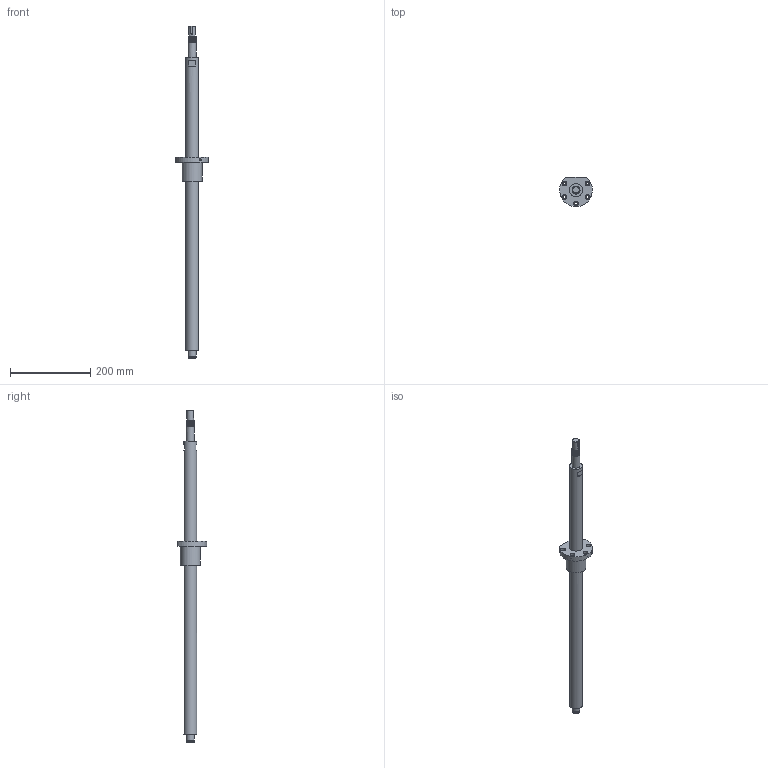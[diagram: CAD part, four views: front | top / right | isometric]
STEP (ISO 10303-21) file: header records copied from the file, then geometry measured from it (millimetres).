
FILE_DESCRIPTION(/* description */ (''),/* implementation_level */ '2;1');
FILE_NAME(/* name */ 'BSG401_asm1.stp',/* time_stamp */ '2017-01-12T14:07:50+08:00',/* author */ (''),/* organization */ (''),/* preprocessor_version */ 'ST-DEVELOPER v15',/* originating_system */ 'SIEMENS PLM Software NX 8.5',/* authorisation */ '');
FILE_SCHEMA (('AUTOMOTIVE_DESIGN { 1 0 10303 214 3 1 1 1 }'));
Length unit declared in the file: millimetre
Products named in the file (3): 01; BSG401; BSG401_asm1
Assembly tree (2 placements, depth 2):
  BSG401_asm1
    BSG401
    01
Bounding box: 81.92 x 72.85 x 830 mm (x, y, z)
Volume: 718958.5 mm3; surface area: 108899.2 mm2
Topology: 2 solids, 2 shells, 61 faces, 131 edges, 88 vertices
Faces by surface type: cylinder 29, plane 28, bspline 2, cone 2
Full cylindrical faces by diameter (mm): 5 x1, 6 x1, 7 x5, 12 x5, 17 x1, 19 x1, 20 x8, 32 x2, 50 x1
Entity records: 2959 total; most frequent: CARTESIAN_POINT 1791, DIRECTION 234, ORIENTED_EDGE 174, AXIS2_PLACEMENT_3D 105, EDGE_LOOP 104, EDGE_CURVE 87, FACE_BOUND 85, VERTEX_POINT 71
